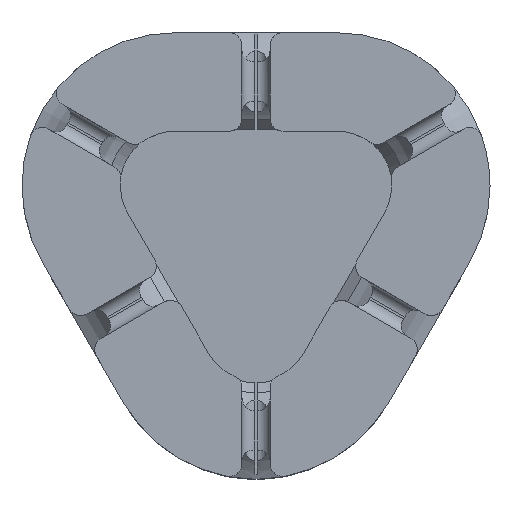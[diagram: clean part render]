
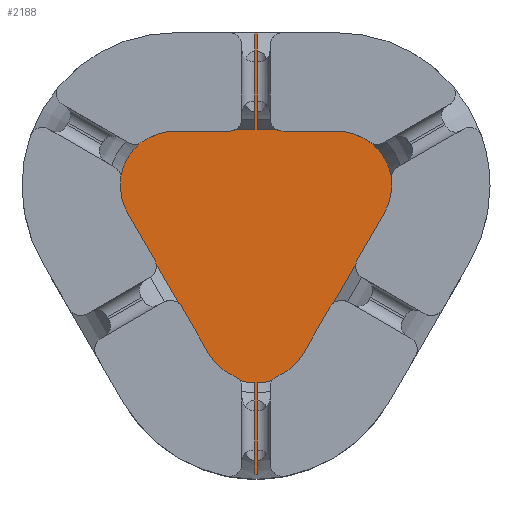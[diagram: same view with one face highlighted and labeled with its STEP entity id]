
A CAD part, top view. The second image highlights one B-rep face of the part: STEP entity #2188.
In plain terms, the highlighted planar face has unit normal (0, 0, 1).
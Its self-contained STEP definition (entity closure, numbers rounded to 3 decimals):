
#41 = CARTESIAN_POINT ( 'NONE',  ( 0., -11.547, 0.4 ) ) ;
#42 = VECTOR ( 'NONE', #5832, 1000. ) ;
#147 = ORIENTED_EDGE ( 'NONE', *, *, #1267, .F. ) ;
#181 = DIRECTION ( 'NONE',  ( 0.5, 0.866, 0. ) ) ;
#195 = CARTESIAN_POINT ( 'NONE',  ( -4., 12.65, 0.4 ) ) ;
#212 = EDGE_CURVE ( 'NONE', #1669, #4477, #944, .T. ) ;
#217 = VERTEX_POINT ( 'NONE', #1836 ) ;
#312 = DIRECTION ( 'NONE',  ( 0., 1., 0. ) ) ;
#334 = EDGE_CURVE ( 'NONE', #5255, #217, #3434, .T. ) ;
#401 = CARTESIAN_POINT ( 'NONE',  ( 4., 24.774, 0.4 ) ) ;
#405 = EDGE_CURVE ( 'NONE', #5723, #4044, #3825, .T. ) ;
#497 = VECTOR ( 'NONE', #4915, 1000. ) ;
#530 = VERTEX_POINT ( 'NONE', #4551 ) ;
#683 = VECTOR ( 'NONE', #181, 1000. ) ;
#735 = LINE ( 'NONE', #5655, #1684 ) ;
#919 = CARTESIAN_POINT ( 'NONE',  ( 4., -30.547, 0.4 ) ) ;
#928 = CARTESIAN_POINT ( 'NONE',  ( 0., -11.547, 0.4 ) ) ;
#944 = LINE ( 'NONE', #4838, #3524 ) ;
#989 = DIRECTION ( 'NONE',  ( -1., 0., 0. ) ) ;
#1079 = VECTOR ( 'NONE', #2981, 1000. ) ;
#1129 = DIRECTION ( 'NONE',  ( 0., 0., 1. ) ) ;
#1267 = EDGE_CURVE ( 'NONE', #530, #5354, #1482, .T. ) ;
#1305 = DIRECTION ( 'NONE',  ( -1., 0., 0. ) ) ;
#1375 = LINE ( 'NONE', #3858, #42 ) ;
#1386 = ORIENTED_EDGE ( 'NONE', *, *, #3135, .T. ) ;
#1402 = AXIS2_PLACEMENT_3D ( 'NONE', #2619, #1129, #3591 ) ;
#1482 = CIRCLE ( 'NONE', #2951, 19. ) ;
#1483 = DIRECTION ( 'NONE',  ( -1., 0., 0. ) ) ;
#1598 = CIRCLE ( 'NONE', #5403, 6.876 ) ;
#1631 = VECTOR ( 'NONE', #312, 1000. ) ;
#1659 = ORIENTED_EDGE ( 'NONE', *, *, #4664, .T. ) ;
#1669 = VERTEX_POINT ( 'NONE', #401 ) ;
#1684 = VECTOR ( 'NONE', #2615, 1000. ) ;
#1741 = DIRECTION ( 'NONE',  ( 0., 0., -1. ) ) ;
#1836 = CARTESIAN_POINT ( 'NONE',  ( -15.955, 2.335, 0.4 ) ) ;
#1977 = EDGE_CURVE ( 'NONE', #4044, #3489, #2562, .T. ) ;
#2025 = EDGE_CURVE ( 'NONE', #2186, #4477, #2313, .T. ) ;
#2123 = ORIENTED_EDGE ( 'NONE', *, *, #2025, .F. ) ;
#2186 = VERTEX_POINT ( 'NONE', #195 ) ;
#2188 = ADVANCED_FACE ( 'NONE', ( #3025 ), #4202, .F. ) ;
#2244 = CARTESIAN_POINT ( 'NONE',  ( 5.955, -14.985, 0.4 ) ) ;
#2256 = EDGE_CURVE ( 'NONE', #5354, #3889, #1375, .T. ) ;
#2313 = LINE ( 'NONE', #6262, #1631 ) ;
#2538 = DIRECTION ( 'NONE',  ( -1., 0., 0. ) ) ;
#2562 = LINE ( 'NONE', #4808, #3248 ) ;
#2615 = DIRECTION ( 'NONE',  ( -1., 0., 0. ) ) ;
#2619 = CARTESIAN_POINT ( 'NONE',  ( 10., 5.774, 0.4 ) ) ;
#2626 = ORIENTED_EDGE ( 'NONE', *, *, #3750, .T. ) ;
#2806 = EDGE_CURVE ( 'NONE', #3489, #1669, #3564, .T. ) ;
#2951 = AXIS2_PLACEMENT_3D ( 'NONE', #4472, #5941, #1483 ) ;
#2969 = CARTESIAN_POINT ( 'NONE',  ( 4., 12.65, 0.4 ) ) ;
#2981 = DIRECTION ( 'NONE',  ( 0., 1., 0. ) ) ;
#2998 = AXIS2_PLACEMENT_3D ( 'NONE', #3466, #4505, #2538 ) ;
#3025 = FACE_OUTER_BOUND ( 'NONE', #3596, .T. ) ;
#3135 = EDGE_CURVE ( 'NONE', #3281, #5723, #4347, .T. ) ;
#3141 = CARTESIAN_POINT ( 'NONE',  ( 10., 12.65, 0.4 ) ) ;
#3173 = DIRECTION ( 'NONE',  ( -1., 0., 0. ) ) ;
#3217 = CARTESIAN_POINT ( 'NONE',  ( -10., 5.774, 0.4 ) ) ;
#3248 = VECTOR ( 'NONE', #1305, 1000. ) ;
#3281 = VERTEX_POINT ( 'NONE', #2244 ) ;
#3321 = CARTESIAN_POINT ( 'NONE',  ( 15.955, 2.335, 0.4 ) ) ;
#3388 = CARTESIAN_POINT ( 'NONE',  ( -5.955, -14.985, 0.4 ) ) ;
#3392 = VECTOR ( 'NONE', #5260, 1000. ) ;
#3434 = CIRCLE ( 'NONE', #2998, 6.876 ) ;
#3466 = CARTESIAN_POINT ( 'NONE',  ( -10., 5.774, 0.4 ) ) ;
#3468 = CARTESIAN_POINT ( 'NONE',  ( -4., -17.14, 0.4 ) ) ;
#3489 = VERTEX_POINT ( 'NONE', #2969 ) ;
#3524 = VECTOR ( 'NONE', #4413, 1000. ) ;
#3564 = LINE ( 'NONE', #919, #1079 ) ;
#3591 = DIRECTION ( 'NONE',  ( -1., 0., 0. ) ) ;
#3596 = EDGE_LOOP ( 'NONE', ( #4700, #5685, #1386, #5599, #4817, #4307, #4657, #2123, #1659, #5168, #2626, #5032, #3990, #147 ) ) ;
#3606 = CARTESIAN_POINT ( 'NONE',  ( -4., 24.774, 0.4 ) ) ;
#3732 = CARTESIAN_POINT ( 'NONE',  ( -15.955, 2.335, 0.4 ) ) ;
#3750 = EDGE_CURVE ( 'NONE', #217, #4261, #5893, .T. ) ;
#3825 = CIRCLE ( 'NONE', #1402, 6.876 ) ;
#3858 = CARTESIAN_POINT ( 'NONE',  ( -4., -30.547, 0.4 ) ) ;
#3889 = VERTEX_POINT ( 'NONE', #3468 ) ;
#3923 = AXIS2_PLACEMENT_3D ( 'NONE', #928, #5477, #3960 ) ;
#3930 = CIRCLE ( 'NONE', #3923, 6.876 ) ;
#3960 = DIRECTION ( 'NONE',  ( -1., 0., 0. ) ) ;
#3990 = ORIENTED_EDGE ( 'NONE', *, *, #2256, .F. ) ;
#3995 = DIRECTION ( 'NONE',  ( 0., 0., 1. ) ) ;
#4044 = VERTEX_POINT ( 'NONE', #3141 ) ;
#4202 = PLANE ( 'NONE',  #5471 ) ;
#4261 = VERTEX_POINT ( 'NONE', #3388 ) ;
#4307 = ORIENTED_EDGE ( 'NONE', *, *, #2806, .T. ) ;
#4317 = CARTESIAN_POINT ( 'NONE',  ( -10., 12.65, 0.4 ) ) ;
#4347 = LINE ( 'NONE', #4683, #683 ) ;
#4413 = DIRECTION ( 'NONE',  ( -1., 0., 0. ) ) ;
#4456 = CARTESIAN_POINT ( 'NONE',  ( -4., -30.121, 0.4 ) ) ;
#4472 = CARTESIAN_POINT ( 'NONE',  ( 0., -11.547, 0.4 ) ) ;
#4477 = VERTEX_POINT ( 'NONE', #3606 ) ;
#4505 = DIRECTION ( 'NONE',  ( 0., 0., 1. ) ) ;
#4551 = CARTESIAN_POINT ( 'NONE',  ( 4., -30.121, 0.4 ) ) ;
#4657 = ORIENTED_EDGE ( 'NONE', *, *, #212, .T. ) ;
#4664 = EDGE_CURVE ( 'NONE', #2186, #5255, #735, .T. ) ;
#4683 = CARTESIAN_POINT ( 'NONE',  ( 10.955, -6.325, 0.4 ) ) ;
#4700 = ORIENTED_EDGE ( 'NONE', *, *, #5313, .T. ) ;
#4808 = CARTESIAN_POINT ( 'NONE',  ( -10., 12.65, 0.4 ) ) ;
#4817 = ORIENTED_EDGE ( 'NONE', *, *, #1977, .T. ) ;
#4838 = CARTESIAN_POINT ( 'NONE',  ( -10., 24.774, 0.4 ) ) ;
#4915 = DIRECTION ( 'NONE',  ( 0., 1., 0. ) ) ;
#4988 = CARTESIAN_POINT ( 'NONE',  ( 4., -30.547, 0.4 ) ) ;
#5032 = ORIENTED_EDGE ( 'NONE', *, *, #5036, .T. ) ;
#5036 = EDGE_CURVE ( 'NONE', #4261, #3889, #3930, .T. ) ;
#5168 = ORIENTED_EDGE ( 'NONE', *, *, #334, .T. ) ;
#5255 = VERTEX_POINT ( 'NONE', #4317 ) ;
#5260 = DIRECTION ( 'NONE',  ( 0.5, -0.866, 0. ) ) ;
#5278 = VERTEX_POINT ( 'NONE', #5904 ) ;
#5313 = EDGE_CURVE ( 'NONE', #530, #5278, #6412, .T. ) ;
#5354 = VERTEX_POINT ( 'NONE', #4456 ) ;
#5403 = AXIS2_PLACEMENT_3D ( 'NONE', #41, #3995, #989 ) ;
#5471 = AXIS2_PLACEMENT_3D ( 'NONE', #3217, #1741, #3173 ) ;
#5477 = DIRECTION ( 'NONE',  ( 0., 0., 1. ) ) ;
#5599 = ORIENTED_EDGE ( 'NONE', *, *, #405, .T. ) ;
#5655 = CARTESIAN_POINT ( 'NONE',  ( -10., 12.65, 0.4 ) ) ;
#5685 = ORIENTED_EDGE ( 'NONE', *, *, #6177, .T. ) ;
#5723 = VERTEX_POINT ( 'NONE', #3321 ) ;
#5832 = DIRECTION ( 'NONE',  ( 0., 1., 0. ) ) ;
#5893 = LINE ( 'NONE', #3732, #3392 ) ;
#5904 = CARTESIAN_POINT ( 'NONE',  ( 4., -17.14, 0.4 ) ) ;
#5941 = DIRECTION ( 'NONE',  ( 0., 0., -1. ) ) ;
#6177 = EDGE_CURVE ( 'NONE', #5278, #3281, #1598, .T. ) ;
#6262 = CARTESIAN_POINT ( 'NONE',  ( -4., -30.547, 0.4 ) ) ;
#6412 = LINE ( 'NONE', #4988, #497 ) ;
